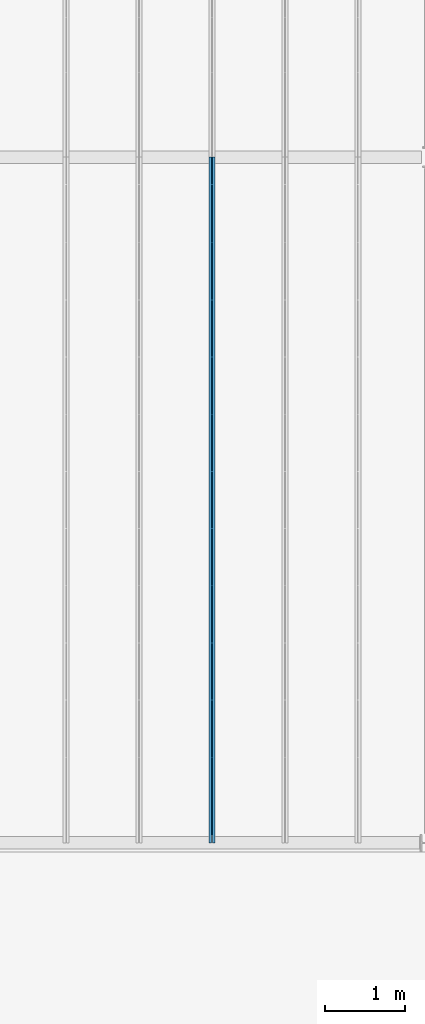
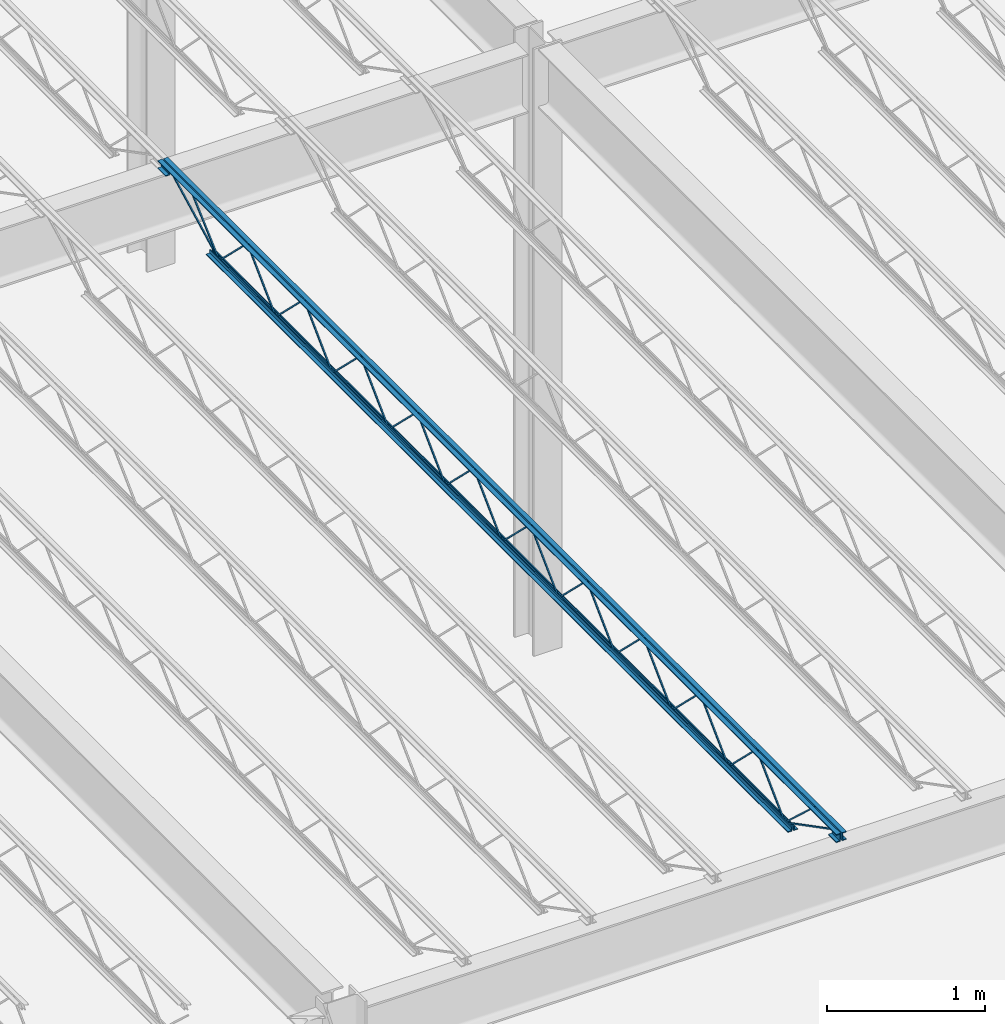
# One storey, part 43 of 119: 1 beam.
"""IFC2X3 building model written with IfcOpenShell, lengths in metres."""

from ifc_helpers import new_model, entity, si_unit, converted_unit, frame, origin, place, context, project, spatial, face_set, surface_model, element, save


model = new_model("IFC2X3")

# Units and contexts
model_context = context("Model", 3, precision=1e-09, world=origin())
plan_context = context("Plan", 3, precision=1e-09, world=origin())
ifc_project = project(units=[si_unit("LENGTHUNIT", "METRE"), si_unit("AREAUNIT", "SQUARE_METRE"), si_unit("VOLUMEUNIT", "CUBIC_METRE"), converted_unit("PLANEANGLEUNIT", "DEGREE", entity("IfcRatioMeasure", 0.01745329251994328), si_unit("PLANEANGLEUNIT", "RADIAN"), dimensions=[0, 0, 0, 0, 0, 0, 0]), si_unit("TIMEUNIT", "SECOND")], contexts=[model_context, plan_context])

# Site, building, storey
site_placement = place(None, origin())
site = spatial("IfcSite", under=ifc_project, at=site_placement, Name="Default", CompositionType="ELEMENT")
building_placement = place(site_placement, origin())
building = spatial("IfcBuilding", under=site, at=building_placement, CompositionType="ELEMENT")
storey_placement = place(building_placement, frame((0.0, 0.0, 4.570000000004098)))
storey = spatial("IfcBuildingStorey", under=building, at=storey_placement, Name="Second Floor", CompositionType="ELEMENT", Elevation=4.570000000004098)

# Beam
beam_placement = place(storey_placement, frame((-22.83103571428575, 10.04000000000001, 4.323999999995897), z_axis=(0.0, 0.0, 1.0), x_axis=(-1.0, 0.0, 0.0)))
element("IfcBeam", 1, at=beam_placement, inside=storey, Name="M_K-Series Bar Joist-Rod Web:14K1:14K1", ObjectType="M_K-Series Bar Joist-Rod Web:14K1", context=model_context, shape_type="SurfaceModel", body=[
    surface_model("IfcFaceBasedSurfaceModel", [(-0.03200000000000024, -2.141200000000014, 0.01110000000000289), (-0.04149999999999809, -2.141200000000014, 0.01110000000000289), (-0.04149999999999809, -2.141200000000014, 0.001600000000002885), (-0.03200000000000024, -2.141200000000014, 0.001600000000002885), (-0.04149999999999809, -2.13996192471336, 0.01110000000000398), (-0.03200000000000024, -2.13996192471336, 0.01110000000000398), (-0.04149999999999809, -2.136088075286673, 0.001600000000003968), (-0.04149999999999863, -1.785138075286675, 0.3449000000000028), (-0.04149999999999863, -1.782661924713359, 0.3449000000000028), (-0.04149999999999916, -1.431711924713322, 0.001600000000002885), (-0.04149999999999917, -1.42660000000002, 0.001600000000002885), (-0.04149999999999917, -1.426600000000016, 0.01110000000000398), (-0.04149999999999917, -1.427838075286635, 0.01110000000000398), (-0.04149999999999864, -1.778788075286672, 0.3544000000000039), (-0.04149999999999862, -1.789011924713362, 0.3544000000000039), (-0.03199999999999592, -2.136088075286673, 0.001600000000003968), (-0.03200000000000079, -1.785138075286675, 0.3449000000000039), (-0.03200000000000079, -1.782661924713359, 0.3449000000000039), (-0.03200000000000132, -1.431711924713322, 0.001600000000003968), (-0.03200000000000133, -1.426600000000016, 0.001600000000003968), (-0.03200000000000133, -1.42660000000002, 0.01110000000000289), (-0.03200000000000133, -1.427838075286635, 0.01110000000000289), (-0.03200000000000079, -1.778788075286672, 0.3544000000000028), (-0.03200000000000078, -1.789011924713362, 0.3544000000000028), (-0.03199999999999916, -2.855800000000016, 0.01110000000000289), (-0.04149999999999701, -2.855800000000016, 0.01110000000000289), (-0.04149999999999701, -2.855800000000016, 0.001600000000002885), (-0.03199999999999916, -2.855800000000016, 0.001600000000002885), (-0.04149999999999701, -2.854561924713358, 0.01110000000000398), (-0.03199999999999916, -2.854561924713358, 0.01110000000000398), (-0.04149999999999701, -2.850688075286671, 0.001600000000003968), (-0.04149999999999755, -2.499738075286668, 0.3449000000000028), (-0.04149999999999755, -2.497261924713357, 0.3449000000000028), (-0.04149999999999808, -2.14631192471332, 0.001600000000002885), (-0.04149999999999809, -2.141200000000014, 0.01110000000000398), (-0.04149999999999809, -2.142438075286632, 0.01110000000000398), (-0.04149999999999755, -2.49338807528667, 0.3544000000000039), (-0.04149999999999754, -2.503611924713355, 0.3544000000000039), (-0.03199999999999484, -2.850688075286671, 0.001600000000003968), (-0.0319999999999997, -2.499738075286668, 0.3449000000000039), (-0.0319999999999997, -2.497261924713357, 0.3449000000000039), (-0.03200000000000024, -2.14631192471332, 0.001600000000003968), (-0.03200000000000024, -2.141200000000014, 0.001600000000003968), (-0.03200000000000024, -2.142438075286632, 0.01110000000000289), (-0.03199999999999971, -2.49338807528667, 0.3544000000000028), (-0.0319999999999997, -2.503611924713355, 0.3544000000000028), (-0.03200000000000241, -3.570400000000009, 0.01110000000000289), (-0.04150000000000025, -3.570400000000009, 0.01110000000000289), (-0.04150000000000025, -3.570400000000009, 0.001600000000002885), (-0.03200000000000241, -3.570400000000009, 0.001600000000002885), (-0.04150000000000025, -3.569161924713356, 0.01110000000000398), (-0.03200000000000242, -3.569161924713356, 0.01110000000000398), (-0.04150000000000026, -3.565288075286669, 0.001600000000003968), (-0.04150000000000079, -3.21433807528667, 0.3449000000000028), (-0.04150000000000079, -3.211861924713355, 0.3449000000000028), (-0.04150000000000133, -2.860911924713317, 0.001600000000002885), (-0.04149999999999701, -2.855800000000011, 0.001600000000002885), (-0.04150000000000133, -2.855800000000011, 0.01110000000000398), (-0.04150000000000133, -2.857038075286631, 0.01110000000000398), (-0.0415000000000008, -3.207988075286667, 0.3544000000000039), (-0.04150000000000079, -3.218211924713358, 0.3544000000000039), (-0.03199999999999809, -3.565288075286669, 0.001600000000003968), (-0.03200000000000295, -3.21433807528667, 0.3449000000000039), (-0.03200000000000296, -3.211861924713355, 0.3449000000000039), (-0.03200000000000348, -2.860911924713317, 0.001600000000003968), (-0.03200000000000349, -2.855800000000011, 0.001600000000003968), (-0.03199999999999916, -2.855800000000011, 0.01110000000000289), (-0.03200000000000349, -2.857038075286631, 0.01110000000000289), (-0.03200000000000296, -3.207988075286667, 0.3544000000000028), (-0.03200000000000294, -3.218211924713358, 0.3544000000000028), (-0.03200000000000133, -4.285000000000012, 0.01110000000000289), (-0.04149999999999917, -4.285000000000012, 0.01110000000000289), (-0.04149999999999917, -4.285000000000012, 0.001600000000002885), (-0.03200000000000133, -4.285000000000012, 0.001600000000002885), (-0.04149999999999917, -4.283761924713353, 0.01110000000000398), (-0.03200000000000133, -4.283761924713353, 0.01110000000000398), (-0.04149999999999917, -4.279888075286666, 0.001600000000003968), (-0.0414999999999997, -3.928938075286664, 0.3449000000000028), (-0.04149999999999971, -3.926461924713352, 0.3449000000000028), (-0.04150000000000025, -3.575511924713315, 0.001600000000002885), (-0.04150000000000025, -3.570400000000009, 0.01110000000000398), (-0.04150000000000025, -3.571638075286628, 0.01110000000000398), (-0.04149999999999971, -3.922588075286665, 0.3544000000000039), (-0.0414999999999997, -3.932811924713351, 0.3544000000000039), (-0.031999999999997, -4.279888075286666, 0.001600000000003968), (-0.03200000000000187, -3.928938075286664, 0.3449000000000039), (-0.03200000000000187, -3.926461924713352, 0.3449000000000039), (-0.0320000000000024, -3.575511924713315, 0.001600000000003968), (-0.03200000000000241, -3.570400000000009, 0.001600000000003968), (-0.03200000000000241, -3.571638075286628, 0.01110000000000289), (-0.03200000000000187, -3.922588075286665, 0.3544000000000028), (-0.03200000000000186, -3.932811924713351, 0.3544000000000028), (-0.03200000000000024, -4.999600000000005, 0.01110000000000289), (-0.04149999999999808, -4.999600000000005, 0.01110000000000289), (-0.04149999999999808, -4.999600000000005, 0.001600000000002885), (-0.03200000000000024, -4.999600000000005, 0.001600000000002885), (-0.04149999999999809, -4.998361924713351, 0.01110000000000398), (-0.03200000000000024, -4.998361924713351, 0.01110000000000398), (-0.04149999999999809, -4.99448807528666, 0.001600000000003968), (-0.04149999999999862, -4.643538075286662, 0.3449000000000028), (-0.04149999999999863, -4.64106192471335, 0.3449000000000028), (-0.04149999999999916, -4.290111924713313, 0.001600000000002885), (-0.04149999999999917, -4.285000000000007, 0.001600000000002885), (-0.04149999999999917, -4.285000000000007, 0.01110000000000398), (-0.04149999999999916, -4.286238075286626, 0.01110000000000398), (-0.04149999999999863, -4.637188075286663, 0.3544000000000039), (-0.04149999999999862, -4.647411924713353, 0.3544000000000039), (-0.03199999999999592, -4.994488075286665, 0.001600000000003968), (-0.03200000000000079, -4.643538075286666, 0.3449000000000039), (-0.03200000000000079, -4.64106192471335, 0.3449000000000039), (-0.03200000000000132, -4.290111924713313, 0.001600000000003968), (-0.03200000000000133, -4.285000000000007, 0.001600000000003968), (-0.03200000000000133, -4.285000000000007, 0.01110000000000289), (-0.03200000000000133, -4.286238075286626, 0.01110000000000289), (-0.03200000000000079, -4.637188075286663, 0.3544000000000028), (-0.03200000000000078, -4.647411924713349, 0.3544000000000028), (-0.03200000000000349, -5.714200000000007, 0.01110000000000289), (-0.04150000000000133, -5.714200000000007, 0.01110000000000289), (-0.04150000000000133, -5.714200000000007, 0.001600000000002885), (-0.03200000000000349, -5.714200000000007, 0.001600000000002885), (-0.04150000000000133, -5.712961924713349, 0.01110000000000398), (-0.03200000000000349, -5.712961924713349, 0.01110000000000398), (-0.04149999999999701, -5.709088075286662, 0.001600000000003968), (-0.04149999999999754, -5.35813807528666, 0.3449000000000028), (-0.04149999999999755, -5.355661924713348, 0.3449000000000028), (-0.04149999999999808, -5.004711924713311, 0.001600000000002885), (-0.04150000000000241, -4.999600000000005, 0.01110000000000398), (-0.04150000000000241, -5.000838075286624, 0.01110000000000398), (-0.04150000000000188, -5.351788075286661, 0.3544000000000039), (-0.04150000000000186, -5.362011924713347, 0.3544000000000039), (-0.03199999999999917, -5.709088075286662, 0.001600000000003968), (-0.03200000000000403, -5.35813807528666, 0.3449000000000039), (-0.03200000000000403, -5.355661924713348, 0.3449000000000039), (-0.03200000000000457, -5.004711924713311, 0.001600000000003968), (-0.03200000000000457, -4.999600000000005, 0.001600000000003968), (-0.03200000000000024, -5.000838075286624, 0.01110000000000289), (-0.03199999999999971, -5.351788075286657, 0.3544000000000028), (-0.0319999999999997, -5.362011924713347, 0.3544000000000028), (-0.03200000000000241, -6.428800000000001, 0.01110000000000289), (-0.04150000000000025, -6.428800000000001, 0.01110000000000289), (-0.04150000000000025, -6.428800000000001, 0.001600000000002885), (-0.03200000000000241, -6.428800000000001, 0.001600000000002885), (-0.04150000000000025, -6.427561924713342, 0.01110000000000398), (-0.03200000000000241, -6.427561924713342, 0.01110000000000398), (-0.04150000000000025, -6.423688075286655, 0.001600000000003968), (-0.04150000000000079, -6.072738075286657, 0.3449000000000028), (-0.04150000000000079, -6.070261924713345, 0.3449000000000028), (-0.04150000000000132, -5.719311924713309, 0.001600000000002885), (-0.04150000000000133, -5.714199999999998, 0.001600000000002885), (-0.04150000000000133, -5.714199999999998, 0.01110000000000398), (-0.04150000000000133, -5.715438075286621, 0.01110000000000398), (-0.04150000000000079, -6.066388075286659, 0.3544000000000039), (-0.04150000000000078, -6.076611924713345, 0.3544000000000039), (-0.03199999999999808, -6.423688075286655, 0.001600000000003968), (-0.03200000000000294, -6.072738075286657, 0.3449000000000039), (-0.03200000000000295, -6.070261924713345, 0.3449000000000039), (-0.03200000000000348, -5.719311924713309, 0.001600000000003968), (-0.03200000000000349, -5.714199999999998, 0.001600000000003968), (-0.03200000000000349, -5.714199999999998, 0.01110000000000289), (-0.03200000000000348, -5.715438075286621, 0.01110000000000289), (-0.03200000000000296, -6.066388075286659, 0.3544000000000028), (-0.03200000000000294, -6.076611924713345, 0.3544000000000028), (-0.03200000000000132, -7.143399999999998, 0.01110000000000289), (-0.04149999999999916, -7.143399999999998, 0.01110000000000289), (-0.04149999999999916, -7.143399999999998, 0.001600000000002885), (-0.03200000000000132, -7.143399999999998, 0.001600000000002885), (-0.04149999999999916, -7.142161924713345, 0.01110000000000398), (-0.03200000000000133, -7.142161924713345, 0.01110000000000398), (-0.04149999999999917, -7.138288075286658, 0.001600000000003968), (-0.0414999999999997, -6.787338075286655, 0.3449000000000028), (-0.0414999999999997, -6.784861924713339, 0.3449000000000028), (-0.04150000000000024, -6.433911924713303, 0.001600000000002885), (-0.04150000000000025, -6.428800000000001, 0.01110000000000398), (-0.04150000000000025, -6.430038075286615, 0.01110000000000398), (-0.04149999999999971, -6.780988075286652, 0.3544000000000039), (-0.0414999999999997, -6.791211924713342, 0.3544000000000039), (-0.031999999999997, -7.138288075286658, 0.001600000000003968), (-0.03200000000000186, -6.787338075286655, 0.3449000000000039), (-0.03200000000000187, -6.784861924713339, 0.3449000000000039), (-0.0320000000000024, -6.433911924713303, 0.001600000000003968), (-0.03200000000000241, -6.428800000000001, 0.001600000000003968), (-0.0320000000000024, -6.430038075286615, 0.01110000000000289), (-0.03200000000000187, -6.780988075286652, 0.3544000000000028), (-0.03200000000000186, -6.791211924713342, 0.3544000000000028), (-0.03200000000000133, -1.42660000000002, 0.01109999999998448), (-0.04149999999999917, -1.42660000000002, 0.01109999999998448), (-0.04149999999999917, -1.42660000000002, 0.001599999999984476), (-0.03200000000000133, -1.42660000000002, 0.001599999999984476), (-0.04149999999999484, -1.425361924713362, 0.01109999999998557), (-0.031999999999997, -1.425361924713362, 0.01109999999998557), (-0.04149999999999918, -1.421488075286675, 0.001599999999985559), (-0.04149999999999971, -1.070538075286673, 0.3448999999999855), (-0.04149999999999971, -1.068061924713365, 0.3448999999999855), (-0.04150000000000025, -0.7171119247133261, 0.001599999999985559), (-0.04150000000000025, -0.7120000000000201, 0.001599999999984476), (-0.04150000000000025, -0.712000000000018, 0.01109999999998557), (-0.04150000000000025, -0.7132380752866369, 0.01109999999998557), (-0.04149999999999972, -1.064188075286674, 0.3543999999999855), (-0.0414999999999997, -1.07441192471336, 0.3543999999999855), (-0.031999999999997, -1.421488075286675, 0.001599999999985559), (-0.03199999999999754, -1.070538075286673, 0.3448999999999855), (-0.03199999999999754, -1.068061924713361, 0.3448999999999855), (-0.03199999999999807, -0.7171119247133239, 0.001599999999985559), (-0.03199999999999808, -0.712000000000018, 0.001599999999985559), (-0.03200000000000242, -0.7120000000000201, 0.01109999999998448), (-0.03199999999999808, -0.713238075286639, 0.01109999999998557), (-0.03199999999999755, -1.064188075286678, 0.3543999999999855), (-0.03199999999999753, -1.07441192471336, 0.3543999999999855), (-0.03200000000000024, -7.857999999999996, 0.01110000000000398), (-0.04149999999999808, -7.857999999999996, 0.01110000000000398), (-0.04149999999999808, -7.857999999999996, 0.001600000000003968), (-0.03200000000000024, -7.857999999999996, 0.001600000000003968), (-0.04149999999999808, -7.856761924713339, 0.01110000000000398), (-0.03200000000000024, -7.856761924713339, 0.01110000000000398), (-0.04149999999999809, -7.852888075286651, 0.001600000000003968), (-0.04149999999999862, -7.501938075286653, 0.3449000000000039), (-0.04149999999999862, -7.499461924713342, 0.3449000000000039), (-0.04149999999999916, -7.148511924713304, 0.001600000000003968), (-0.04149999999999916, -7.143399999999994, 0.001600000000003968), (-0.04149999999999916, -7.143399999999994, 0.01110000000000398), (-0.04149999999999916, -7.144638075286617, 0.01110000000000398), (-0.04149999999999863, -7.495588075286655, 0.3544000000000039), (-0.04149999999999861, -7.50581192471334, 0.3544000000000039), (-0.03199999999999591, -7.852888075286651, 0.001600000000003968), (-0.03200000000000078, -7.501938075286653, 0.3449000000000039), (-0.03200000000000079, -7.499461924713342, 0.3449000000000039), (-0.03200000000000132, -7.148511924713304, 0.001600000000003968), (-0.03200000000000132, -7.143399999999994, 0.001600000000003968), (-0.03200000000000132, -7.143399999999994, 0.01110000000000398), (-0.03200000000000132, -7.144638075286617, 0.01110000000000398), (-0.03200000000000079, -7.495588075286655, 0.3544000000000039), (-0.03200000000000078, -7.50581192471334, 0.3544000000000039), (-0.04150000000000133, 0.0, 0.3559999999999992), (-0.07350000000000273, 0.0, 0.3559999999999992), (-0.07350000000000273, 0.0, 0.3494999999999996), (-0.04799999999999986, 0.0, 0.3494999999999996), (-0.04799999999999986, 0.0, 0.3239999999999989), (-0.04150000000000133, 0.0, 0.3239999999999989), (-0.03200000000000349, 0.0, 0.3559999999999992), (-0.03200000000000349, 0.0, 0.3239999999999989), (-0.02550000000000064, 0.0, 0.3239999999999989), (-0.02550000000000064, 0.0, 0.3494999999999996), (0.0, 0.0, 0.3494999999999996), (0.0, 0.0, 0.3559999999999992), (-0.04149999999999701, -8.569999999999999, 0.3559999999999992), (-0.07349999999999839, -8.569999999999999, 0.3559999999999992), (-0.07349999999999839, -8.569999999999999, 0.3494999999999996), (-0.04799999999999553, -8.569999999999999, 0.3494999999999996), (-0.04799999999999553, -8.569999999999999, 0.3239999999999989), (-0.04149999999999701, -8.569999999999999, 0.3239999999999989), (-0.03199999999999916, -8.569999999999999, 0.3559999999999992), (-0.03199999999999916, -8.569999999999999, 0.3239999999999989), (-0.02549999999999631, -8.569999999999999, 0.3239999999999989), (-0.02549999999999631, -8.569999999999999, 0.3494999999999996), (0.0, -8.569999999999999, 0.3494999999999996), (0.0, -8.569999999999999, 0.3559999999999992), (-0.03199999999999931, -8.470000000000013, 0.2924999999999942), (0.0, -8.470000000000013, 0.2924999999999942), (0.0, -8.470000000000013, 0.2989999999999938), (-0.02550000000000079, -8.470000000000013, 0.2989999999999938), (-0.02550000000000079, -8.470000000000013, 0.3239999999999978), (-0.03199999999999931, -8.470000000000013, 0.3239999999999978), (-0.07349999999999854, -8.470000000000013, 0.2924999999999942), (-0.04149999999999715, -8.470000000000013, 0.2924999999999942), (-0.04149999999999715, -8.470000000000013, 0.3239999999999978), (-0.048, -8.470000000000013, 0.3239999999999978), (-0.048, -8.470000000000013, 0.2989999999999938), (-0.07349999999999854, -8.470000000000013, 0.2989999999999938), (-0.03199999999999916, -8.569999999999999, 0.2924999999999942), (0.0, -8.569999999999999, 0.2924999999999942), (0.0, -8.569999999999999, 0.2989999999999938), (-0.02550000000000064, -8.569999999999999, 0.2989999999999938), (-0.02550000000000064, -8.569999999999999, 0.3239999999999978), (-0.03199999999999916, -8.569999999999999, 0.3239999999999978), (-0.07349999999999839, -8.569999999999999, 0.2924999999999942), (-0.04149999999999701, -8.569999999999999, 0.2924999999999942), (-0.04149999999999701, -8.569999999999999, 0.3239999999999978), (-0.04799999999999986, -8.569999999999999, 0.3239999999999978), (-0.04799999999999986, -8.569999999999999, 0.2989999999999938), (-0.07349999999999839, -8.569999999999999, 0.2989999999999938), (-0.04150000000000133, 0.0, 0.2924999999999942), (-0.04150000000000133, 0.0, 0.3239999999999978), (-0.04800000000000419, 0.0, 0.3239999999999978), (-0.04800000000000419, 0.0, 0.2989999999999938), (-0.07350000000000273, 0.0, 0.2989999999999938), (-0.07350000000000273, 0.0, 0.2924999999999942), (-0.03200000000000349, 0.0, 0.2924999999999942), (0.0, 0.0, 0.2924999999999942), (0.0, 0.0, 0.2989999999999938), (-0.02550000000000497, 0.0, 0.2989999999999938), (-0.02550000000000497, 0.0, 0.3239999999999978), (-0.03200000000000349, 0.0, 0.3239999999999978), (-0.04150000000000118, -0.1000000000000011, 0.2924999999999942), (-0.04150000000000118, -0.1000000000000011, 0.3239999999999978), (-0.04800000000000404, -0.1000000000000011, 0.3239999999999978), (-0.04800000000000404, -0.1000000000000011, 0.2989999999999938), (-0.07350000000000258, -0.1000000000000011, 0.2989999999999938), (-0.07350000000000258, -0.1000000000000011, 0.2924999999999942), (-0.03200000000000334, -0.1000000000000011, 0.2924999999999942), (0.0, -0.1000000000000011, 0.2924999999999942), (0.0, -0.1000000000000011, 0.2989999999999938), (-0.02550000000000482, -0.1000000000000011, 0.2989999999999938), (-0.02550000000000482, -0.1000000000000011, 0.3239999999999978), (-0.03200000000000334, -0.1000000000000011, 0.3239999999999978), (-0.04150000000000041, -0.6119999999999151, 0.0), (-0.04150000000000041, -0.6119999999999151, 0.03199999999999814), (-0.04799999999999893, -0.6119999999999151, 0.03199999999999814), (-0.04799999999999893, -0.6119999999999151, 0.006499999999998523), (-0.0735000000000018, -0.6119999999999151, 0.006499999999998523), (-0.0735000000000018, -0.6119999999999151, 0.0), (-0.03200000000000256, -0.6119999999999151, 0.0), (0.0, -0.6119999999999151, 0.0), (0.0, -0.6119999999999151, 0.006499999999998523), (-0.02549999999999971, -0.6119999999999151, 0.006499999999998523), (-0.02549999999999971, -0.6119999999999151, 0.03199999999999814), (-0.03200000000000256, -0.6119999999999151, 0.03199999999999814), (-0.04149999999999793, -7.957999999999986, 0.0), (-0.04149999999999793, -7.957999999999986, 0.03199999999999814), (-0.04799999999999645, -7.957999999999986, 0.03199999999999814), (-0.04799999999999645, -7.957999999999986, 0.006499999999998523), (-0.07349999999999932, -7.957999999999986, 0.006499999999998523), (-0.07349999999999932, -7.957999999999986, 0.0), (-0.03200000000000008, -7.957999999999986, 0.0), (0.0, -7.957999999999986, 0.0), (0.0, -7.957999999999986, 0.006499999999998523), (-0.02549999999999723, -7.957999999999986, 0.006499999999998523), (-0.02549999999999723, -7.957999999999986, 0.03199999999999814), (-0.03200000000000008, -7.957999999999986, 0.03199999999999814), (-0.03200000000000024, -7.855811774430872, 0.01056594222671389), (-0.04149999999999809, -7.855811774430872, 0.01056594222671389), (-0.04149999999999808, -7.860188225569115, 0.002134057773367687), (-0.03200000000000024, -7.860188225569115, 0.00213405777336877), (-0.03199999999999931, -8.468840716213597, 0.3287499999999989), (-0.03199999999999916, -8.569999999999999, 0.3287499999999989), (-0.03199999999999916, -8.569999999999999, 0.3192499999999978), (-0.03199999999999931, -8.471159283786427, 0.3192499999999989), (-0.04150000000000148, -8.471159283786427, 0.3192499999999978), (-0.04149999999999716, -8.468840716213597, 0.3287499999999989), (-0.04149999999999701, -8.569999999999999, 0.3287499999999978), (-0.04149999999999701, -8.569999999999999, 0.3192499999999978), (-0.03199999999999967, -8.235257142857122, 0.3417000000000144), (-0.04149999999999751, -8.235257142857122, 0.3417000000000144), (-0.04149999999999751, -8.235257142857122, 0.3322000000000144), (-0.03199999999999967, -8.235257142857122, 0.3322000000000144), (-0.04149999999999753, -8.220724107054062, 0.3417000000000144), (-0.03199999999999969, -8.220724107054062, 0.3417000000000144), (-0.04149999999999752, -8.224390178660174, 0.3322000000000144), (-0.04149999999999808, -7.86119088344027, 0.002831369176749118), (-0.04149999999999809, -7.854809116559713, 0.009868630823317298), (-0.03199999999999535, -8.224390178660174, 0.3322000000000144), (-0.03200000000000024, -7.86119088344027, 0.002831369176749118), (-0.03200000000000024, -7.854809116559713, 0.009868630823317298), (-0.03200000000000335, -0.09781177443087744, 0.3197840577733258), (-0.03200000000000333, -0.1021882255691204, 0.328215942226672), (-0.04150000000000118, -0.1021882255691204, 0.328215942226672), (-0.04150000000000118, -0.09781177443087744, 0.3197840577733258), (-0.03200000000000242, -0.7098117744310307, 0.002134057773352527), (-0.03200000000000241, -0.7141882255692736, 0.01056594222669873), (-0.04150000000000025, -0.7141882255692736, 0.01056594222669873), (-0.04150000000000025, -0.7098117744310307, 0.002134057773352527), (-0.03200000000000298, -0.336963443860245, 0.3461600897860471), (-0.03200000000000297, -0.3434079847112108, 0.3531399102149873), (-0.04150000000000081, -0.3434079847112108, 0.3531399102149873), (-0.04150000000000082, -0.336963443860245, 0.3461600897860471), (-0.03200000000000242, -0.7087777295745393, 0.00286008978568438), (-0.03200000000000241, -0.7152222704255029, 0.009839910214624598), (-0.04150000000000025, -0.7152222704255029, 0.009839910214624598), (-0.04150000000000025, -0.7087777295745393, 0.00286008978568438)], [face_set([[[0, 1, 2, 3]], [[1, 4, 5, 0]], [[2, 6, 7, 8, 9, 10, 11, 12, 13, 14, 4, 1]], [[3, 2, 6, 15]], [[0, 3, 15, 16, 17, 18, 19, 20, 21, 22, 23, 5]], [[4, 5, 23, 14]], [[15, 16, 7, 6]], [[14, 13, 22, 23]], [[16, 7, 8, 17]], [[13, 12, 21, 22]], [[17, 8, 9, 18]], [[20, 11, 10, 19]], [[12, 11, 20, 21]], [[18, 9, 10, 19]]]), face_set([[[24, 25, 26, 27]], [[25, 28, 29, 24]], [[26, 30, 31, 32, 33, 2, 34, 35, 36, 37, 28, 25]], [[27, 26, 30, 38]], [[24, 27, 38, 39, 40, 41, 42, 0, 43, 44, 45, 29]], [[28, 29, 45, 37]], [[38, 39, 31, 30]], [[37, 36, 44, 45]], [[39, 31, 32, 40]], [[36, 35, 43, 44]], [[40, 32, 33, 41]], [[0, 34, 2, 42]], [[35, 34, 0, 43]], [[41, 33, 2, 42]]]), face_set([[[46, 47, 48, 49]], [[47, 50, 51, 46]], [[48, 52, 53, 54, 55, 56, 57, 58, 59, 60, 50, 47]], [[49, 48, 52, 61]], [[46, 49, 61, 62, 63, 64, 65, 66, 67, 68, 69, 51]], [[50, 51, 69, 60]], [[61, 62, 53, 52]], [[60, 59, 68, 69]], [[62, 53, 54, 63]], [[59, 58, 67, 68]], [[63, 54, 55, 64]], [[66, 57, 56, 65]], [[58, 57, 66, 67]], [[64, 55, 56, 65]]]), face_set([[[70, 71, 72, 73]], [[71, 74, 75, 70]], [[72, 76, 77, 78, 79, 48, 80, 81, 82, 83, 74, 71]], [[73, 72, 76, 84]], [[70, 73, 84, 85, 86, 87, 88, 46, 89, 90, 91, 75]], [[74, 75, 91, 83]], [[84, 85, 77, 76]], [[83, 82, 90, 91]], [[85, 77, 78, 86]], [[82, 81, 89, 90]], [[86, 78, 79, 87]], [[46, 80, 48, 88]], [[81, 80, 46, 89]], [[87, 79, 48, 88]]]), face_set([[[92, 93, 94, 95]], [[93, 96, 97, 92]], [[94, 98, 99, 100, 101, 102, 103, 104, 105, 106, 96, 93]], [[95, 94, 98, 107]], [[92, 95, 107, 108, 109, 110, 111, 112, 113, 114, 115, 97]], [[96, 97, 115, 106]], [[107, 108, 99, 98]], [[106, 105, 114, 115]], [[108, 99, 100, 109]], [[105, 104, 113, 114]], [[109, 100, 101, 110]], [[112, 103, 102, 111]], [[104, 103, 112, 113]], [[110, 101, 102, 111]]]), face_set([[[116, 117, 118, 119]], [[117, 120, 121, 116]], [[118, 122, 123, 124, 125, 94, 126, 127, 128, 129, 120, 117]], [[119, 118, 122, 130]], [[116, 119, 130, 131, 132, 133, 134, 92, 135, 136, 137, 121]], [[120, 121, 137, 129]], [[130, 131, 123, 122]], [[129, 128, 136, 137]], [[131, 123, 124, 132]], [[128, 127, 135, 136]], [[132, 124, 125, 133]], [[92, 126, 94, 134]], [[127, 126, 92, 135]], [[133, 125, 94, 134]]]), face_set([[[138, 139, 140, 141]], [[139, 142, 143, 138]], [[140, 144, 145, 146, 147, 148, 149, 150, 151, 152, 142, 139]], [[141, 140, 144, 153]], [[138, 141, 153, 154, 155, 156, 157, 158, 159, 160, 161, 143]], [[142, 143, 161, 152]], [[153, 154, 145, 144]], [[152, 151, 160, 161]], [[154, 145, 146, 155]], [[151, 150, 159, 160]], [[155, 146, 147, 156]], [[158, 149, 148, 157]], [[150, 149, 158, 159]], [[156, 147, 148, 157]]]), face_set([[[162, 163, 164, 165]], [[163, 166, 167, 162]], [[164, 168, 169, 170, 171, 140, 172, 173, 174, 175, 166, 163]], [[165, 164, 168, 176]], [[162, 165, 176, 177, 178, 179, 180, 138, 181, 182, 183, 167]], [[166, 167, 183, 175]], [[176, 177, 169, 168]], [[175, 174, 182, 183]], [[177, 169, 170, 178]], [[174, 173, 181, 182]], [[178, 170, 171, 179]], [[138, 172, 140, 180]], [[173, 172, 138, 181]], [[179, 171, 140, 180]]]), face_set([[[184, 185, 186, 187]], [[185, 188, 189, 184]], [[186, 190, 191, 192, 193, 194, 195, 196, 197, 198, 188, 185]], [[187, 186, 190, 199]], [[184, 187, 199, 200, 201, 202, 203, 204, 205, 206, 207, 189]], [[188, 189, 207, 198]], [[199, 200, 191, 190]], [[198, 197, 206, 207]], [[200, 191, 192, 201]], [[197, 196, 205, 206]], [[201, 192, 193, 202]], [[204, 195, 194, 203]], [[196, 195, 204, 205]], [[202, 193, 194, 203]]]), face_set([[[208, 209, 210, 211]], [[209, 212, 213, 208]], [[210, 214, 215, 216, 217, 218, 219, 220, 221, 222, 212, 209]], [[211, 210, 214, 223]], [[208, 211, 223, 224, 225, 226, 227, 228, 229, 230, 231, 213]], [[212, 213, 231, 222]], [[223, 224, 215, 214]], [[222, 221, 230, 231]], [[224, 215, 216, 225]], [[221, 220, 229, 230]], [[225, 216, 217, 226]], [[228, 219, 218, 227]], [[220, 219, 228, 229]], [[226, 217, 218, 227]]]), face_set([[[232, 233, 234, 235, 236, 237]], [[238, 239, 240, 241, 242, 243]], [[244, 245, 246, 247, 248, 249]], [[250, 251, 252, 253, 254, 255]], [[237, 232, 244, 249]], [[236, 237, 249, 248]], [[235, 247, 248, 236]], [[234, 235, 247, 246]], [[233, 245, 246, 234]], [[232, 244, 245, 233]], [[243, 255, 250, 238]], [[242, 243, 255, 254]], [[241, 242, 254, 253]], [[240, 241, 253, 252]], [[239, 240, 252, 251]], [[238, 250, 251, 239]]]), face_set([[[256, 257, 258, 259, 260, 261]], [[262, 263, 264, 265, 266, 267]], [[268, 269, 270, 271, 272, 273]], [[274, 275, 276, 277, 278, 279]], [[261, 273, 268, 256]], [[260, 272, 273, 261]], [[259, 260, 272, 271]], [[258, 270, 271, 259]], [[257, 258, 270, 269]], [[256, 257, 269, 268]], [[267, 279, 274, 262]], [[266, 278, 279, 267]], [[265, 277, 278, 266]], [[264, 276, 277, 265]], [[263, 264, 276, 275]], [[262, 263, 275, 274]]]), face_set([[[280, 281, 282, 283, 284, 285]], [[286, 287, 288, 289, 290, 291]], [[292, 293, 294, 295, 296, 297]], [[298, 299, 300, 301, 302, 303]], [[285, 280, 292, 297]], [[284, 296, 297, 285]], [[283, 295, 296, 284]], [[282, 294, 295, 283]], [[281, 293, 294, 282]], [[280, 281, 293, 292]], [[291, 303, 298, 286]], [[290, 302, 303, 291]], [[289, 290, 302, 301]], [[288, 300, 301, 289]], [[287, 288, 300, 299]], [[286, 287, 299, 298]]]), face_set([[[304, 305, 306, 307, 308, 309]], [[310, 311, 312, 313, 314, 315]], [[316, 317, 318, 319, 320, 321]], [[322, 323, 324, 325, 326, 327]], [[309, 304, 316, 321]], [[308, 320, 321, 309]], [[307, 319, 320, 308]], [[306, 318, 319, 307]], [[305, 317, 318, 306]], [[304, 305, 317, 316]], [[315, 327, 322, 310]], [[314, 326, 327, 315]], [[313, 314, 326, 325]], [[312, 324, 325, 313]], [[311, 312, 324, 323]], [[310, 311, 323, 322]]]), face_set([[[328, 329, 330, 331]], [[331, 328, 332, 333, 334, 335]], [[330, 331, 335, 336]], [[329, 337, 338, 339, 336, 330]], [[328, 332, 337, 329]], [[333, 338, 339, 334]], [[336, 335, 334, 339]], [[332, 333, 338, 337]]]), face_set([[[340, 341, 342, 343]], [[341, 344, 345, 340]], [[342, 346, 347, 348, 344, 341]], [[343, 342, 346, 349]], [[340, 343, 349, 350, 351, 345]], [[351, 348, 347, 350]], [[344, 348, 351, 345]], [[349, 346, 347, 350]]]), face_set([[[352, 353, 354, 355]], [[356, 357, 358, 359]], [[355, 352, 356, 359]], [[354, 358, 359, 355]], [[353, 357, 358, 354]], [[352, 353, 357, 356]]]), face_set([[[360, 361, 362, 363]], [[364, 365, 366, 367]], [[363, 367, 364, 360]], [[362, 366, 367, 363]], [[361, 362, 366, 365]], [[360, 361, 365, 364]]])]),
])

save(model, "model.ifc")
